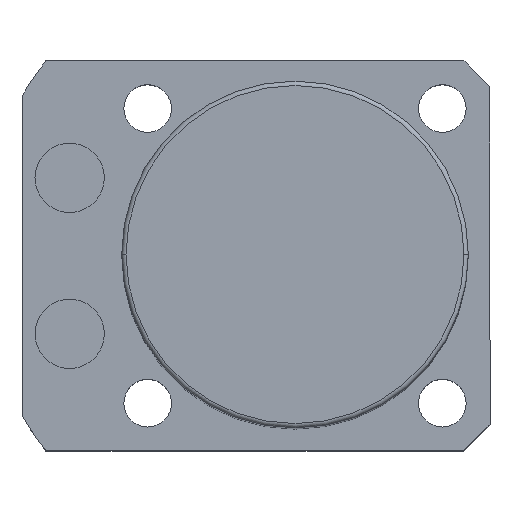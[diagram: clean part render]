
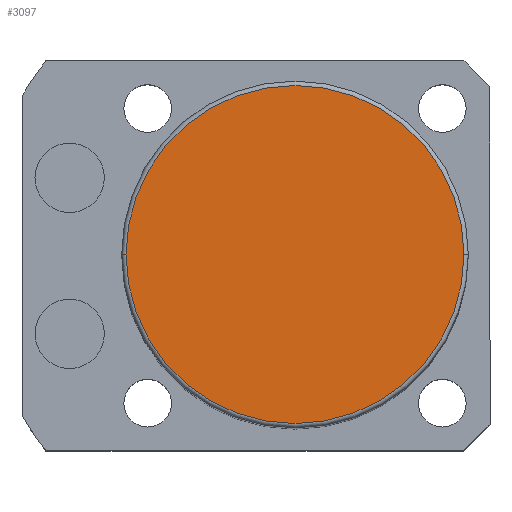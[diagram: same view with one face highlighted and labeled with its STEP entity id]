
A CAD part, top view. The second image highlights one B-rep face of the part: STEP entity #3097.
In plain terms, the highlighted planar face has unit normal (0, 0, 1).
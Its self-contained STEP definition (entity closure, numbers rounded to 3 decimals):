
#84 = CARTESIAN_POINT ( 'NONE',  ( 0., 0., 98.5 ) ) ;
#135 = ORIENTED_EDGE ( 'NONE', *, *, #5236, .T. ) ;
#157 = DIRECTION ( 'NONE',  ( 0., 0., 1. ) ) ;
#161 = AXIS2_PLACEMENT_3D ( 'NONE', #84, #157, #1003 ) ;
#438 = VERTEX_POINT ( 'NONE', #4628 ) ;
#444 = CIRCLE ( 'NONE', #1914, 19.5 ) ;
#1003 = DIRECTION ( 'NONE',  ( 1., 0., 0. ) ) ;
#1113 = AXIS2_PLACEMENT_3D ( 'NONE', #4151, #5422, #1822 ) ;
#1186 = DIRECTION ( 'NONE',  ( 0., 0., 1. ) ) ;
#1628 = DIRECTION ( 'NONE',  ( 1., 0., 0. ) ) ;
#1822 = DIRECTION ( 'NONE',  ( 1., 0., 0. ) ) ;
#1914 = AXIS2_PLACEMENT_3D ( 'NONE', #5282, #1186, #1628 ) ;
#2715 = PLANE ( 'NONE',  #1113 ) ;
#3097 = ADVANCED_FACE ( 'NONE', ( #4548 ), #2715, .T. ) ;
#3466 = EDGE_CURVE ( 'NONE', #5832, #438, #444, .T. ) ;
#3499 = CARTESIAN_POINT ( 'NONE',  ( 19.5, 0., 98.5 ) ) ;
#4151 = CARTESIAN_POINT ( 'NONE',  ( 0., 0., 98.5 ) ) ;
#4165 = ORIENTED_EDGE ( 'NONE', *, *, #3466, .T. ) ;
#4548 = FACE_OUTER_BOUND ( 'NONE', #4776, .T. ) ;
#4628 = CARTESIAN_POINT ( 'NONE',  ( -19.5, 0., 98.5 ) ) ;
#4776 = EDGE_LOOP ( 'NONE', ( #4165, #135 ) ) ;
#5236 = EDGE_CURVE ( 'NONE', #438, #5832, #5625, .T. ) ;
#5282 = CARTESIAN_POINT ( 'NONE',  ( 0., 0., 98.5 ) ) ;
#5422 = DIRECTION ( 'NONE',  ( 0., 0., 1. ) ) ;
#5625 = CIRCLE ( 'NONE', #161, 19.5 ) ;
#5832 = VERTEX_POINT ( 'NONE', #3499 ) ;
